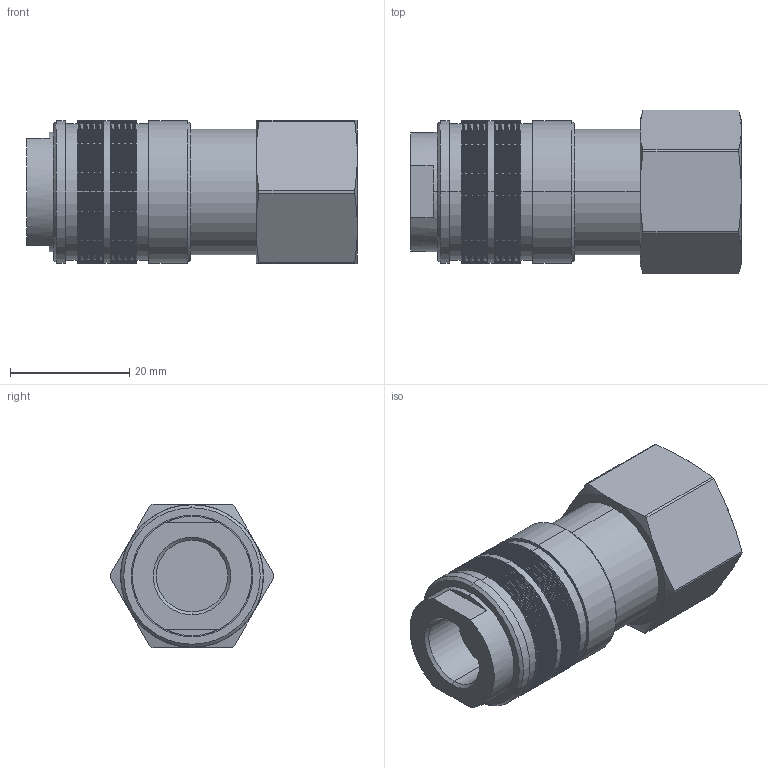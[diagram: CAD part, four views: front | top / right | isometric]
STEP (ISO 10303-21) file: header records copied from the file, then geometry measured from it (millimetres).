
FILE_DESCRIPTION (( 'STEP AP214' ), '1' );
FILE_NAME ('au_163_0.STEP', '2016-10-14T15:11:03', ( '' ), ( '' ), 'SwSTEP 2.0', 'SolidWorks 2016', '' );
FILE_SCHEMA (( 'AUTOMOTIVE_DESIGN' ));
Length unit declared in the file: millimetre
Products named in the file (1): au_163_0
Bounding box: 55.5 x 27.5 x 24 mm (x, y, z)
Volume: 18554 mm3; surface area: 7430.5 mm2
Topology: 1 solids, 1 shells, 423 faces, 858 edges, 448 vertices
Faces by surface type: cylinder 204, cone 196, plane 23
Entity records: 10876 total; most frequent: DIRECTION 2114, CARTESIAN_POINT 1850, ORIENTED_EDGE 1716, EDGE_CURVE 858, AXIS2_PLACEMENT_3D 856, VERTEX_POINT 448, EDGE_LOOP 434, CIRCLE 432
